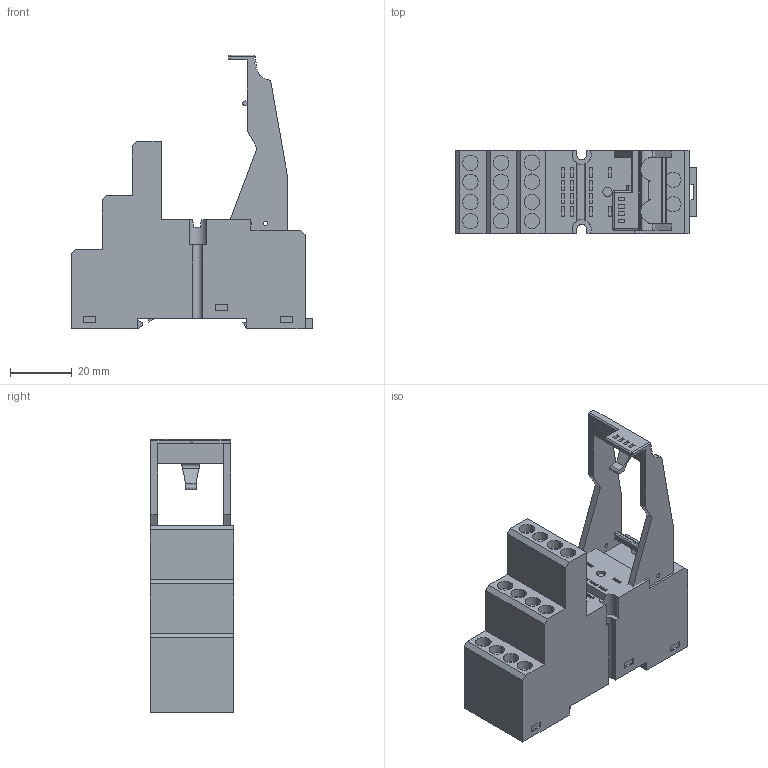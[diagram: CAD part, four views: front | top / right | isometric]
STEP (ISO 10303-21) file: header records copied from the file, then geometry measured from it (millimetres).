
FILE_DESCRIPTION((''),'2;1');
FILE_NAME('700-HN104_ASM','2021-08-18T14:46:43',('SEminovi'),('Rockwell Automation'),'CREO PARAMETRIC BY PTC INC, 2020281','CREO PARAMETRIC BY PTC INC, 2020281','');
FILE_SCHEMA(('CONFIG_CONTROL_DESIGN'));
Products named in the file (3): 10005896733; 46811-479; 700-HN104_ASM
Assembly tree (2 placements, depth 2):
  700-HN104_ASM
    10005896733
    46811-479
Bounding box: 78.5 x 27 x 88.94 mm (x, y, z)
Volume: 75619.7 mm3; surface area: 18460.6 mm2
Topology: 2 solids, 2 shells, 321 faces, 827 edges, 547 vertices
Faces by surface type: plane 248, cylinder 71, sphere 2
Entity records: 9865 total; most frequent: CARTESIAN_POINT 1827, ORIENTED_EDGE 1654, DIRECTION 1578, EDGE_CURVE 827, VECTOR 672, LINE 672, VERTEX_POINT 547, AXIS2_PLACEMENT_3D 453
